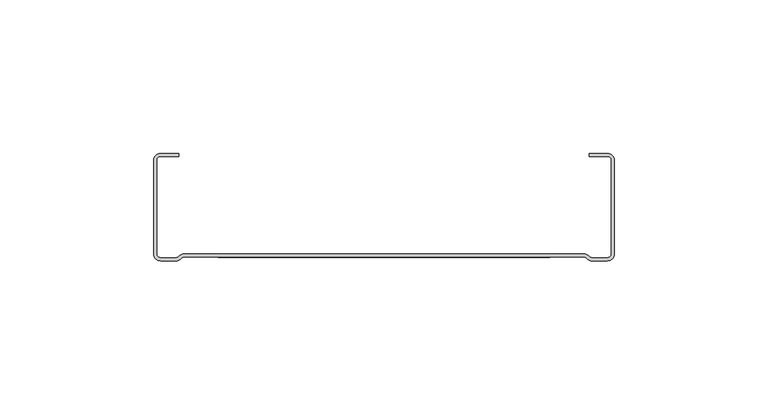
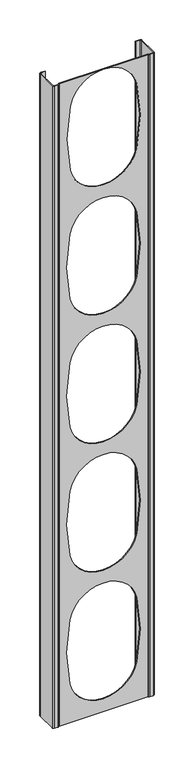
"""IFC4 building model written with IfcOpenShell, lengths in millimetres: proxy geometry, afs-LW-Stud-162 : afs-LW-Stud-162."""

from ifc_helpers import new_model, si_unit, frame, origin, place, context, project, spatial, polyline, circle_curve, source, transform, mapped, element, save
from ifc_brep_helpers import plane_surface, cylinder_surface, revolved_surface, advanced_brep


def generic_models_4f916ead(model_context):
    return source(origin(), model_context, "Body", "AdvancedBrep", [
        advanced_brep(
        [(75.0, 32.75, 1040.0), (72.75, 35.0, 1040.0), (66.75, 35.0, 1040.0), (66.75, 34.0, 1040.0), (72.75, 34.0, 1040.0), (74.0, 32.75, 1040.0), (74.0, 2.25, 1040.0), (72.75, 1.0, 1040.0), (67.75, 1.0, 1040.0), (66.819723, 1.4150841, 1040.0), (65.0795419, 2.2, 1040.0), (0.0, 2.2, 1040.0), (-65.0795419, 2.2, 1040.0), (-66.819723, 1.4150841, 1040.0), (-67.75, 1.0, 1040.0), (-72.75, 1.0, 1040.0), (-74.0, 2.25, 1040.0), (-74.0, 32.75, 1040.0), (-72.75, 34.0, 1040.0), (-66.75, 34.0, 1040.0), (-66.75, 35.0, 1040.0), (-72.75, 35.0, 1040.0), (-75.0, 32.75, 1040.0), (-75.0, 2.25, 1040.0), (-72.75, 0.0, 1040.0), (-67.75, 0.0, 1040.0), (-66.0632084, 0.760962, 1040.0), (-65.0795419, 1.2, 1040.0), (0.0, 1.2, 1040.0), (65.0795419, 1.2, 1040.0), (66.0632084, 0.760962, 1040.0), (67.75, 0.0, 1040.0), (72.75, 0.0, 1040.0), (75.0, 2.25, 1040.0), (72.75, 35.0, 40.0), (75.0, 32.75, 40.0), (75.0, 2.25, 40.0), (72.75, 0.0, 40.0), (67.75, 0.0, 40.0), (66.0632084, 0.760962, 40.0), (65.0795419, 1.2, 40.0), (-65.0795419, 1.2, 40.0), (-66.0632084, 0.760962, 40.0), (-67.75, 0.0, 40.0), (-72.75, 0.0, 40.0), (-75.0, 2.25, 40.0), (-75.0, 32.75, 40.0), (-72.75, 35.0, 40.0), (-66.75, 35.0, 40.0), (-66.75, 34.0, 40.0), (-72.75, 34.0, 40.0), (-74.0, 32.75, 40.0), (-74.0, 2.25, 40.0), (-72.75, 1.0, 40.0), (-67.75, 1.0, 40.0), (-66.819723, 1.4150841, 40.0), (-65.0795419, 2.2, 40.0), (65.0795419, 2.2, 40.0), (66.819723, 1.4150841, 40.0), (67.75, 1.0, 40.0), (72.75, 1.0, 40.0), (74.0, 2.25, 40.0), (74.0, 32.75, 40.0), (72.75, 34.0, 40.0), (66.75, 34.0, 40.0), (66.75, 35.0, 40.0), (-49.009901, 2.2, 999.9009901), (-49.009901, 2.2, 900.0990099), (49.009901, 2.2, 900.0990099), (49.009901, 2.2, 999.9009901), (-49.009901, 2.2, 399.9009901), (-49.009901, 2.2, 300.0990099), (49.009901, 2.2, 300.0990099), (49.009901, 2.2, 399.9009901), (-49.009901, 2.2, 599.9009901), (-49.009901, 2.2, 500.0990099), (49.009901, 2.2, 500.0990099), (49.009901, 2.2, 599.9009901), (-49.009901, 2.2, 799.9009901), (-49.009901, 2.2, 700.0990099), (49.009901, 2.2, 700.0990099), (49.009901, 2.2, 799.9009901), (-49.009901, 2.2, 199.9009901), (-49.009901, 2.2, 100.0990099), (49.009901, 2.2, 100.0990099), (49.009901, 2.2, 199.9009901), (49.009901, 1.2, 999.9009901), (49.009901, 1.2, 900.0990099), (-49.009901, 1.2, 900.0990099), (-49.009901, 1.2, 999.9009901), (-49.009901, 1.2, 300.0990099), (-49.009901, 1.2, 399.9009901), (49.009901, 1.2, 399.9009901), (49.009901, 1.2, 300.0990099), (-49.009901, 1.2, 500.0990099), (-49.009901, 1.2, 599.9009901), (49.009901, 1.2, 599.9009901), (49.009901, 1.2, 500.0990099), (-49.009901, 1.2, 700.0990099), (-49.009901, 1.2, 799.9009901), (49.009901, 1.2, 799.9009901), (49.009901, 1.2, 700.0990099), (-49.009901, 1.2, 100.0990099), (-49.009901, 1.2, 199.9009901), (49.009901, 1.2, 199.9009901), (49.009901, 1.2, 100.0990099)],
        [
            (0, 1, circle_curve(frame((72.75, 32.75, 1040.0), z_axis=(0.0, 0.0, 1.0), x_axis=(1.0, 0.0, 0.0)), 2.25)),
            (1, 2),
            (2, 3),
            (3, 4),
            (4, 5, circle_curve(frame((72.75, 32.75, 1040.0), z_axis=(0.0, 0.0, -1.0), x_axis=(1.0, 0.0, 0.0)), 1.25)),
            (5, 6),
            (6, 7, circle_curve(frame((72.75, 2.25, 1040.0), z_axis=(0.0, 0.0, -1.0), x_axis=(1.0, 0.0, 0.0)), 1.25)),
            (7, 8),
            (8, 9, circle_curve(frame((67.75, 2.25, 1040.0), z_axis=(0.0, 0.0, -1.0), x_axis=(1.0, 0.0, 0.0)), 1.25)),
            (9, 10, circle_curve(frame((65.0795419, -0.1214736, 1040.0), z_axis=(0.0, 0.0, 1.0), x_axis=(1.0, 0.0, 0.0)), 2.3214736)),
            (10, 11),
            (11, 12),
            (12, 13, circle_curve(frame((-65.0795419, -0.1214736, 1040.0), z_axis=(0.0, 0.0, 1.0), x_axis=(1.0, 0.0, 0.0)), 2.3214736)),
            (13, 14, circle_curve(frame((-67.75, 2.25, 1040.0), z_axis=(0.0, 0.0, -1.0), x_axis=(1.0, 0.0, 0.0)), 1.25)),
            (14, 15),
            (15, 16, circle_curve(frame((-72.75, 2.25, 1040.0), z_axis=(0.0, 0.0, -1.0), x_axis=(1.0, 0.0, 0.0)), 1.25)),
            (16, 17),
            (17, 18, circle_curve(frame((-72.75, 32.75, 1040.0), z_axis=(0.0, 0.0, -1.0), x_axis=(1.0, 0.0, 0.0)), 1.25)),
            (18, 19),
            (19, 20),
            (20, 21),
            (21, 22, circle_curve(frame((-72.75, 32.75, 1040.0), z_axis=(0.0, 0.0, 1.0), x_axis=(1.0, 0.0, 0.0)), 2.25)),
            (22, 23),
            (23, 24, circle_curve(frame((-72.75, 2.25, 1040.0), z_axis=(0.0, 0.0, 1.0), x_axis=(1.0, 0.0, 0.0)), 2.25)),
            (24, 25),
            (25, 26, circle_curve(frame((-67.75, 2.25, 1040.0), z_axis=(0.0, 0.0, 1.0), x_axis=(1.0, 0.0, 0.0)), 2.25)),
            (26, 27, circle_curve(frame((-65.0795419, -0.1214736, 1040.0), z_axis=(0.0, 0.0, -1.0), x_axis=(1.0, 0.0, 0.0)), 1.3214736)),
            (27, 28),
            (28, 29),
            (29, 30, circle_curve(frame((65.0795419, -0.1214736, 1040.0), z_axis=(0.0, 0.0, -1.0), x_axis=(1.0, 0.0, 0.0)), 1.3214736)),
            (30, 31, circle_curve(frame((67.75, 2.25, 1040.0), z_axis=(0.0, 0.0, 1.0), x_axis=(1.0, 0.0, 0.0)), 2.25)),
            (31, 32),
            (32, 33, circle_curve(frame((72.75, 2.25, 1040.0), z_axis=(0.0, 0.0, 1.0), x_axis=(1.0, 0.0, 0.0)), 2.25)),
            (33, 0),
            (34, 35, circle_curve(frame((72.75, 32.75, 40.0), z_axis=(0.0, 0.0, -1.0), x_axis=(1.0, 0.0, 0.0)), 2.25)),
            (35, 36),
            (36, 37, circle_curve(frame((72.75, 2.25, 40.0), z_axis=(0.0, 0.0, -1.0), x_axis=(1.0, 0.0, 0.0)), 2.25)),
            (37, 38),
            (38, 39, circle_curve(frame((67.75, 2.25, 40.0), z_axis=(0.0, 0.0, -1.0), x_axis=(1.0, 0.0, 0.0)), 2.25)),
            (39, 40, circle_curve(frame((65.0795419, -0.1214736, 40.0), z_axis=(0.0, 0.0, 1.0), x_axis=(1.0, 0.0, 0.0)), 1.3214736)),
            (40, 41),
            (41, 42, circle_curve(frame((-65.0795419, -0.1214736, 40.0), z_axis=(0.0, 0.0, 1.0), x_axis=(1.0, 0.0, 0.0)), 1.3214736)),
            (42, 43, circle_curve(frame((-67.75, 2.25, 40.0), z_axis=(0.0, 0.0, -1.0), x_axis=(1.0, 0.0, 0.0)), 2.25)),
            (43, 44),
            (44, 45, circle_curve(frame((-72.75, 2.25, 40.0), z_axis=(0.0, 0.0, -1.0), x_axis=(1.0, 0.0, 0.0)), 2.25)),
            (45, 46),
            (46, 47, circle_curve(frame((-72.75, 32.75, 40.0), z_axis=(0.0, 0.0, -1.0), x_axis=(1.0, 0.0, 0.0)), 2.25)),
            (47, 48),
            (48, 49),
            (49, 50),
            (50, 51, circle_curve(frame((-72.75, 32.75, 40.0), z_axis=(0.0, 0.0, 1.0), x_axis=(1.0, 0.0, 0.0)), 1.25)),
            (51, 52),
            (52, 53, circle_curve(frame((-72.75, 2.25, 40.0), z_axis=(0.0, 0.0, 1.0), x_axis=(1.0, 0.0, 0.0)), 1.25)),
            (53, 54),
            (54, 55, circle_curve(frame((-67.75, 2.25, 40.0), z_axis=(0.0, 0.0, 1.0), x_axis=(1.0, 0.0, 0.0)), 1.25)),
            (55, 56, circle_curve(frame((-65.0795419, -0.1214736, 40.0), z_axis=(0.0, 0.0, -1.0), x_axis=(1.0, 0.0, 0.0)), 2.3214736)),
            (56, 57),
            (57, 58, circle_curve(frame((65.0795419, -0.1214736, 40.0), z_axis=(0.0, 0.0, -1.0), x_axis=(1.0, 0.0, 0.0)), 2.3214736)),
            (58, 59, circle_curve(frame((67.75, 2.25, 40.0), z_axis=(0.0, 0.0, 1.0), x_axis=(1.0, 0.0, 0.0)), 1.25)),
            (59, 60),
            (60, 61, circle_curve(frame((72.75, 2.25, 40.0), z_axis=(0.0, 0.0, 1.0), x_axis=(1.0, 0.0, 0.0)), 1.25)),
            (61, 62),
            (62, 63, circle_curve(frame((72.75, 32.75, 40.0), z_axis=(0.0, 0.0, 1.0), x_axis=(1.0, 0.0, 0.0)), 1.25)),
            (63, 64),
            (64, 65),
            (65, 34),
            (0, 35),
            (34, 1),
            (65, 2),
            (64, 3),
            (63, 4),
            (62, 5),
            (61, 6),
            (60, 7),
            (59, 8),
            (58, 9),
            (57, 10),
            (56, 12),
            (11, 66, circle_curve(frame((0.0, 2.2, 990.0), z_axis=(0.0, -1.0, 0.0), x_axis=(1.0, 0.0, 0.0)), 50.0)),
            (66, 67, circle_curve(frame((198.0, 2.2, 950.0), z_axis=(0.0, -1.0, 0.0), x_axis=(-1.0, 0.0, 0.0)), 252.0)),
            (67, 68, circle_curve(frame((0.0, 2.2, 910.0), z_axis=(0.0, -1.0, 0.0), x_axis=(1.0, 0.0, 0.0)), 50.0)),
            (68, 69, circle_curve(frame((-198.0, 2.2, 950.0), z_axis=(0.0, -1.0, 0.0), x_axis=(1.0, 0.0, 0.0)), 252.0)),
            (69, 11, circle_curve(frame((0.0, 2.2, 990.0), z_axis=(0.0, -1.0, 0.0), x_axis=(1.0, 0.0, 0.0)), 50.0)),
            (70, 71, circle_curve(frame((198.0, 2.2, 350.0), z_axis=(0.0, -1.0, 0.0), x_axis=(-1.0, 0.0, 0.0)), 252.0)),
            (71, 72, circle_curve(frame((0.0, 2.2, 310.0), z_axis=(0.0, -1.0, 0.0), x_axis=(1.0, 0.0, 0.0)), 50.0)),
            (72, 73, circle_curve(frame((-198.0, 2.2, 350.0), z_axis=(0.0, -1.0, 0.0), x_axis=(1.0, 0.0, 0.0)), 252.0)),
            (73, 70, circle_curve(frame((0.0, 2.2, 390.0), z_axis=(0.0, -1.0, 0.0), x_axis=(1.0, 0.0, 0.0)), 50.0)),
            (74, 75, circle_curve(frame((198.0, 2.2, 550.0), z_axis=(0.0, -1.0, 0.0), x_axis=(-1.0, 0.0, 0.0)), 252.0)),
            (75, 76, circle_curve(frame((0.0, 2.2, 510.0), z_axis=(0.0, -1.0, 0.0), x_axis=(1.0, 0.0, 0.0)), 50.0)),
            (76, 77, circle_curve(frame((-198.0, 2.2, 550.0), z_axis=(0.0, -1.0, 0.0), x_axis=(1.0, 0.0, 0.0)), 252.0)),
            (77, 74, circle_curve(frame((0.0, 2.2, 590.0), z_axis=(0.0, -1.0, 0.0), x_axis=(1.0, 0.0, 0.0)), 50.0)),
            (78, 79, circle_curve(frame((198.0, 2.2, 750.0), z_axis=(0.0, -1.0, 0.0), x_axis=(-1.0, 0.0, 0.0)), 252.0)),
            (79, 80, circle_curve(frame((0.0, 2.2, 710.0), z_axis=(0.0, -1.0, 0.0), x_axis=(1.0, 0.0, 0.0)), 50.0)),
            (80, 81, circle_curve(frame((-198.0, 2.2, 750.0), z_axis=(0.0, -1.0, 0.0), x_axis=(1.0, 0.0, 0.0)), 252.0)),
            (81, 78, circle_curve(frame((0.0, 2.2, 790.0), z_axis=(0.0, -1.0, 0.0), x_axis=(1.0, 0.0, 0.0)), 50.0)),
            (82, 83, circle_curve(frame((198.0, 2.2, 150.0), z_axis=(0.0, -1.0, 0.0), x_axis=(-1.0, 0.0, 0.0)), 252.0)),
            (83, 84, circle_curve(frame((0.0, 2.2, 110.0), z_axis=(0.0, -1.0, 0.0), x_axis=(1.0, 0.0, 0.0)), 50.0)),
            (84, 85, circle_curve(frame((-198.0, 2.2, 150.0), z_axis=(0.0, -1.0, 0.0), x_axis=(1.0, 0.0, 0.0)), 252.0)),
            (85, 82, circle_curve(frame((0.0, 2.2, 190.0), z_axis=(0.0, -1.0, 0.0), x_axis=(1.0, 0.0, 0.0)), 50.0)),
            (55, 13),
            (54, 14),
            (53, 15),
            (52, 16),
            (51, 17),
            (50, 18),
            (49, 19),
            (48, 20),
            (47, 21),
            (46, 22),
            (45, 23),
            (44, 24),
            (43, 25),
            (42, 26),
            (41, 27),
            (40, 29),
            (28, 86, circle_curve(frame((0.0, 1.2, 990.0), z_axis=(0.0, 1.0, 0.0), x_axis=(1.0, 0.0, 0.0)), 50.0)),
            (86, 87, circle_curve(frame((-198.0, 1.2, 950.0), z_axis=(0.0, 1.0, 0.0), x_axis=(1.0, 0.0, 0.0)), 252.0)),
            (87, 88, circle_curve(frame((0.0, 1.2, 910.0), z_axis=(0.0, 1.0, 0.0), x_axis=(1.0, 0.0, 0.0)), 50.0)),
            (88, 89, circle_curve(frame((198.0, 1.2, 950.0), z_axis=(0.0, 1.0, 0.0), x_axis=(-1.0, 0.0, 0.0)), 252.0)),
            (89, 28, circle_curve(frame((0.0, 1.2, 990.0), z_axis=(0.0, 1.0, 0.0), x_axis=(1.0, 0.0, 0.0)), 50.0)),
            (90, 91, circle_curve(frame((198.0, 1.2, 350.0), z_axis=(0.0, 1.0, 0.0), x_axis=(-1.0, 0.0, 0.0)), 252.0)),
            (91, 92, circle_curve(frame((0.0, 1.2, 390.0), z_axis=(0.0, 1.0, 0.0), x_axis=(1.0, 0.0, 0.0)), 50.0)),
            (92, 93, circle_curve(frame((-198.0, 1.2, 350.0), z_axis=(0.0, 1.0, 0.0), x_axis=(1.0, 0.0, 0.0)), 252.0)),
            (93, 90, circle_curve(frame((0.0, 1.2, 310.0), z_axis=(0.0, 1.0, 0.0), x_axis=(1.0, 0.0, 0.0)), 50.0)),
            (94, 95, circle_curve(frame((198.0, 1.2, 550.0), z_axis=(0.0, 1.0, 0.0), x_axis=(-1.0, 0.0, 0.0)), 252.0)),
            (95, 96, circle_curve(frame((0.0, 1.2, 590.0), z_axis=(0.0, 1.0, 0.0), x_axis=(1.0, 0.0, 0.0)), 50.0)),
            (96, 97, circle_curve(frame((-198.0, 1.2, 550.0), z_axis=(0.0, 1.0, 0.0), x_axis=(1.0, 0.0, 0.0)), 252.0)),
            (97, 94, circle_curve(frame((0.0, 1.2, 510.0), z_axis=(0.0, 1.0, 0.0), x_axis=(1.0, 0.0, 0.0)), 50.0)),
            (98, 99, circle_curve(frame((198.0, 1.2, 750.0), z_axis=(0.0, 1.0, 0.0), x_axis=(-1.0, 0.0, 0.0)), 252.0)),
            (99, 100, circle_curve(frame((0.0, 1.2, 790.0), z_axis=(0.0, 1.0, 0.0), x_axis=(1.0, 0.0, 0.0)), 50.0)),
            (100, 101, circle_curve(frame((-198.0, 1.2, 750.0), z_axis=(0.0, 1.0, 0.0), x_axis=(1.0, 0.0, 0.0)), 252.0)),
            (101, 98, circle_curve(frame((0.0, 1.2, 710.0), z_axis=(0.0, 1.0, 0.0), x_axis=(1.0, 0.0, 0.0)), 50.0)),
            (102, 103, circle_curve(frame((198.0, 1.2, 150.0), z_axis=(0.0, 1.0, 0.0), x_axis=(-1.0, 0.0, 0.0)), 252.0)),
            (103, 104, circle_curve(frame((0.0, 1.2, 190.0), z_axis=(0.0, 1.0, 0.0), x_axis=(1.0, 0.0, 0.0)), 50.0)),
            (104, 105, circle_curve(frame((-198.0, 1.2, 150.0), z_axis=(0.0, 1.0, 0.0), x_axis=(1.0, 0.0, 0.0)), 252.0)),
            (105, 102, circle_curve(frame((0.0, 1.2, 110.0), z_axis=(0.0, 1.0, 0.0), x_axis=(1.0, 0.0, 0.0)), 50.0)),
            (39, 30),
            (38, 31),
            (37, 32),
            (36, 33),
            (90, 71),
            (70, 91),
            (73, 92),
            (72, 93),
            (94, 75),
            (74, 95),
            (77, 96),
            (76, 97),
            (98, 79),
            (78, 99),
            (81, 100),
            (80, 101),
            (88, 67),
            (66, 89),
            (69, 86),
            (68, 87),
            (102, 83),
            (82, 103),
            (85, 104),
            (84, 105),
        ],
        [
            plane_surface(frame((75.0, 32.75, 1040.0), z_axis=(0.0, 0.0, 1.0), x_axis=(0.0, 1.0, 0.0))),
            plane_surface(frame((75.0, 32.75, 40.0), z_axis=(0.0, 0.0, -1.0), x_axis=(0.0, -1.0, 0.0))),
            cylinder_surface(frame((72.75, 32.75, 40.0), z_axis=(0.0, 0.0, 1.0), x_axis=(1.0, 0.0, 0.0)), 2.25),
            plane_surface(frame((72.75, 35.0, 1040.0), z_axis=(0.0, 1.0, 0.0), x_axis=(0.0, 0.0, -1.0))),
            plane_surface(frame((66.75, 35.0, 1040.0), z_axis=(-1.0, 0.0, 0.0), x_axis=(0.0, 0.0, -1.0))),
            plane_surface(frame((66.75, 34.0, 1040.0), z_axis=(0.0, -1.0, 0.0), x_axis=(0.0, 0.0, -1.0))),
            revolved_surface(polyline([(74.0, 32.75, 40.0), (74.0, 32.75, 1040.0)]), (72.75, 32.75, 40.0), (0.0, 0.0, -1.0)),
            plane_surface(frame((74.0, 32.75, 1040.0), z_axis=(-1.0, 0.0, 0.0), x_axis=(0.0, 0.0, -1.0))),
            revolved_surface(polyline([(74.0, 2.25, 40.0), (74.0, 2.25, 1040.0)]), (72.75, 2.25, 40.0), (0.0, 0.0, -1.0)),
            plane_surface(frame((72.75, 1.0, 1040.0), z_axis=(0.0, 1.0, 0.0), x_axis=(0.0, 0.0, -1.0))),
            revolved_surface(polyline([(69.0, 2.25, 40.0), (69.0, 2.25, 1040.0)]), (67.75, 2.25, 40.0), (0.0, 0.0, -1.0)),
            cylinder_surface(frame((65.0795419, -0.1214736, 40.0), z_axis=(0.0, 0.0, 1.0), x_axis=(1.0, 0.0, 0.0)), 2.3214736),
            plane_surface(frame((65.0795419, 2.2, 1040.0), z_axis=(0.0, 1.0, 0.0), x_axis=(0.0, 0.0, -1.0))),
            cylinder_surface(frame((-65.0795419, -0.1214736, 40.0), z_axis=(0.0, 0.0, 1.0), x_axis=(1.0, 0.0, 0.0)), 2.3214736),
            revolved_surface(polyline([(-66.5, 2.25, 40.0), (-66.5, 2.25, 1040.0)]), (-67.75, 2.25, 40.0), (0.0, 0.0, -1.0)),
            plane_surface(frame((-67.75, 1.0, 1040.0), z_axis=(0.0, 1.0, 0.0), x_axis=(0.0, 0.0, -1.0))),
            revolved_surface(polyline([(-71.5, 2.25, 40.0), (-71.5, 2.25, 1040.0)]), (-72.75, 2.25, 40.0), (0.0, 0.0, -1.0)),
            plane_surface(frame((-74.0, 2.25, 1040.0), z_axis=(1.0, 0.0, 0.0), x_axis=(0.0, 0.0, -1.0))),
            revolved_surface(polyline([(-71.5, 32.75, 40.0), (-71.5, 32.75, 1040.0)]), (-72.75, 32.75, 40.0), (0.0, 0.0, -1.0)),
            plane_surface(frame((-72.75, 34.0, 1040.0), z_axis=(0.0, -1.0, 0.0), x_axis=(0.0, 0.0, -1.0))),
            plane_surface(frame((-66.75, 34.0, 1040.0), z_axis=(1.0, 0.0, 0.0), x_axis=(0.0, 0.0, -1.0))),
            plane_surface(frame((-66.75, 35.0, 1040.0), z_axis=(0.0, 1.0, 0.0), x_axis=(0.0, 0.0, -1.0))),
            cylinder_surface(frame((-72.75, 32.75, 40.0), z_axis=(0.0, 0.0, 1.0), x_axis=(1.0, 0.0, 0.0)), 2.25),
            plane_surface(frame((-75.0, 32.75, 1040.0), z_axis=(-1.0, 0.0, 0.0), x_axis=(0.0, 0.0, -1.0))),
            cylinder_surface(frame((-72.75, 2.25, 40.0), z_axis=(0.0, 0.0, 1.0), x_axis=(1.0, 0.0, 0.0)), 2.25),
            plane_surface(frame((-72.75, 0.0, 1040.0), z_axis=(0.0, -1.0, 0.0), x_axis=(0.0, 0.0, -1.0))),
            cylinder_surface(frame((-67.75, 2.25, 40.0), z_axis=(0.0, 0.0, 1.0), x_axis=(1.0, 0.0, 0.0)), 2.25),
            revolved_surface(polyline([(-63.7580683, -0.1214736, 40.0), (-63.7580683, -0.1214736, 1040.0)]), (-65.0795419, -0.1214736, 40.0), (0.0, 0.0, -1.0)),
            plane_surface(frame((-65.0795419, 1.2, 1040.0), z_axis=(0.0, -1.0, 0.0), x_axis=(0.0, 0.0, -1.0))),
            revolved_surface(polyline([(66.4010155, -0.1214736, 40.0), (66.4010155, -0.1214736, 1040.0)]), (65.0795419, -0.1214736, 40.0), (0.0, 0.0, -1.0)),
            cylinder_surface(frame((67.75, 2.25, 40.0), z_axis=(0.0, 0.0, 1.0), x_axis=(1.0, 0.0, 0.0)), 2.25),
            plane_surface(frame((67.75, 0.0, 1040.0), z_axis=(0.0, -1.0, 0.0), x_axis=(0.0, 0.0, -1.0))),
            cylinder_surface(frame((72.75, 2.25, 40.0), z_axis=(0.0, 0.0, 1.0), x_axis=(1.0, 0.0, 0.0)), 2.25),
            plane_surface(frame((75.0, 2.25, 1040.0), z_axis=(1.0, 0.0, 0.0), x_axis=(0.0, 0.0, -1.0))),
            revolved_surface(polyline([(-54.0, 2.200000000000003, 350.0), (-54.0, 1.2000000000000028, 350.0)]), (198.0, -98.8, 350.0), (0.0, 1.0, 0.0)),
            revolved_surface(polyline([(50.0, 2.200000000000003, 390.0), (50.0, 1.2000000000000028, 390.0)]), (0.0, -98.8, 390.0), (0.0, 1.0, 0.0)),
            revolved_surface(polyline([(54.0, 2.200000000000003, 350.0), (54.0, 1.2000000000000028, 350.0)]), (-198.0, -98.8, 350.0), (0.0, 1.0, 0.0)),
            revolved_surface(polyline([(50.0, 2.200000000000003, 310.0), (50.0, 1.2000000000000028, 310.0)]), (0.0, -98.8, 310.0), (0.0, 1.0, 0.0)),
            revolved_surface(polyline([(-54.0, 2.200000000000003, 550.0), (-54.0, 1.2000000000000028, 550.0)]), (198.0, -98.8, 550.0), (0.0, 1.0, 0.0)),
            revolved_surface(polyline([(50.0, 2.200000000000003, 590.0), (50.0, 1.2000000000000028, 590.0)]), (0.0, -98.8, 590.0), (0.0, 1.0, 0.0)),
            revolved_surface(polyline([(54.0, 2.200000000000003, 550.0), (54.0, 1.2000000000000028, 550.0)]), (-198.0, -98.8, 550.0), (0.0, 1.0, 0.0)),
            revolved_surface(polyline([(50.0, 2.200000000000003, 510.0), (50.0, 1.2000000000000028, 510.0)]), (0.0, -98.8, 510.0), (0.0, 1.0, 0.0)),
            revolved_surface(polyline([(-54.0, 2.200000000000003, 750.0), (-54.0, 1.2000000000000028, 750.0)]), (198.0, -98.8, 750.0), (0.0, 1.0, 0.0)),
            revolved_surface(polyline([(50.0, 2.200000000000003, 790.0), (50.0, 1.2000000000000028, 790.0)]), (0.0, -98.8, 790.0), (0.0, 1.0, 0.0)),
            revolved_surface(polyline([(54.0, 2.200000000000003, 750.0), (54.0, 1.2000000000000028, 750.0)]), (-198.0, -98.8, 750.0), (0.0, 1.0, 0.0)),
            revolved_surface(polyline([(50.0, 2.200000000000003, 710.0), (50.0, 1.2000000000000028, 710.0)]), (0.0, -98.8, 710.0), (0.0, 1.0, 0.0)),
            revolved_surface(polyline([(-54.0, 2.200000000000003, 950.0), (-54.0, 1.2000000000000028, 950.0)]), (198.0, -98.8, 950.0), (0.0, 1.0, 0.0)),
            revolved_surface(polyline([(50.0, 2.200000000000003, 990.0), (50.0, 1.2000000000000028, 990.0)]), (0.0, -98.8, 990.0), (0.0, 1.0, 0.0)),
            revolved_surface(polyline([(54.0, 2.200000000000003, 950.0), (54.0, 1.2000000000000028, 950.0)]), (-198.0, -98.8, 950.0), (0.0, 1.0, 0.0)),
            revolved_surface(polyline([(50.0, 2.200000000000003, 910.0), (50.0, 1.2000000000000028, 910.0)]), (0.0, -98.8, 910.0), (0.0, 1.0, 0.0)),
            revolved_surface(polyline([(-54.0, 2.200000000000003, 150.0), (-54.0, 1.2000000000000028, 150.0)]), (198.0, -98.8, 150.0), (0.0, 1.0, 0.0)),
            revolved_surface(polyline([(50.0, 2.200000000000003, 190.0), (50.0, 1.2000000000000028, 190.0)]), (0.0, -98.8, 190.0), (0.0, 1.0, 0.0)),
            revolved_surface(polyline([(54.0, 2.200000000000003, 150.0), (54.0, 1.2000000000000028, 150.0)]), (-198.0, -98.8, 150.0), (0.0, 1.0, 0.0)),
            revolved_surface(polyline([(50.0, 2.200000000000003, 110.0), (50.0, 1.2000000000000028, 110.0)]), (0.0, -98.8, 110.0), (0.0, 1.0, 0.0)),
        ],
        [
            (0, [[1, 2, 3, 4, 5, 6, 7, 8, 9, 10, 11, 12, 13, 14, 15, 16, 17, 18, 19, 20, 21, 22, 23, 24, 25, 26, 27, 28, 29, 30, 31, 32, 33, 34]]),
            (1, [[35, 36, 37, 38, 39, 40, 41, 42, 43, 44, 45, 46, 47, 48, 49, 50, 51, 52, 53, 54, 55, 56, 57, 58, 59, 60, 61, 62, 63, 64, 65, 66]]),
            (2, [[-1, 67, -35, 68]]),
            (3, [[-2, -68, -66, 69]]),
            (4, [[-3, -69, -65, 70]]),
            (5, [[-4, -70, -64, 71]]),
            (6, [[-5, -71, -63, 72]]),
            (7, [[-6, -72, -62, 73]]),
            (8, [[-7, -73, -61, 74]]),
            (9, [[-8, -74, -60, 75]]),
            (10, [[-9, -75, -59, 76]]),
            (11, [[-10, -76, -58, 77]]),
            (12, [[-57, 78, -12, 79, 80, 81, 82, 83, -11, -77], [84, 85, 86, 87], [88, 89, 90, 91], [92, 93, 94, 95], [96, 97, 98, 99]]),
            (13, [[-13, -78, -56, 100]]),
            (14, [[-14, -100, -55, 101]]),
            (15, [[-15, -101, -54, 102]]),
            (16, [[-16, -102, -53, 103]]),
            (17, [[-17, -103, -52, 104]]),
            (18, [[-18, -104, -51, 105]]),
            (19, [[-19, -105, -50, 106]]),
            (20, [[-20, -106, -49, 107]]),
            (21, [[-21, -107, -48, 108]]),
            (22, [[-22, -108, -47, 109]]),
            (23, [[-23, -109, -46, 110]]),
            (24, [[-24, -110, -45, 111]]),
            (25, [[-25, -111, -44, 112]]),
            (26, [[-26, -112, -43, 113]]),
            (27, [[-27, -113, -42, 114]]),
            (28, [[-41, 115, -29, 116, 117, 118, 119, 120, -28, -114], [121, 122, 123, 124], [125, 126, 127, 128], [129, 130, 131, 132], [133, 134, 135, 136]]),
            (29, [[-30, -115, -40, 137]]),
            (30, [[-31, -137, -39, 138]]),
            (31, [[-32, -138, -38, 139]]),
            (32, [[-33, -139, -37, 140]]),
            (33, [[-34, -140, -36, -67]]),
            (34, [[141, -84, 142, -121]]),
            (35, [[-142, -87, 143, -122]]),
            (36, [[-143, -86, 144, -123]]),
            (37, [[-141, -124, -144, -85]]),
            (38, [[145, -88, 146, -125]]),
            (39, [[-146, -91, 147, -126]]),
            (40, [[-147, -90, 148, -127]]),
            (41, [[-145, -128, -148, -89]]),
            (42, [[149, -92, 150, -129]]),
            (43, [[-150, -95, 151, -130]]),
            (44, [[-151, -94, 152, -131]]),
            (45, [[-149, -132, -152, -93]]),
            (46, [[153, -80, 154, -119]]),
            (47, [[-154, -79, -83, 155, -116, -120]]),
            (48, [[-155, -82, 156, -117]]),
            (49, [[-153, -118, -156, -81]]),
            (50, [[157, -96, 158, -133]]),
            (51, [[-158, -99, 159, -134]]),
            (52, [[-159, -98, 160, -135]]),
            (53, [[-157, -136, -160, -97]]),
        ],
    ),
    ])


if __name__ == "__main__":
    model = new_model("IFC4")
    model_context = context("Model", 3, world=origin())
    ifc_project = project(units=[si_unit("LENGTHUNIT", "METRE", prefix="MILLI")], contexts=[model_context])
    site = spatial("IfcSite", under=ifc_project)
    building = spatial("IfcBuilding", under=site)
    placement = place(None, origin())
    generic_models_shape = generic_models_4f916ead(model_context)
    element("IfcBuildingElementProxy", 1, Name="afs-LW-Stud-162 : afs-LW-Stud-162", ObjectType="afs-LW-Stud-162 : afs-LW-Stud-162", at=placement, inside=building, context=model_context, shape_type="MappedRepresentation", body=[
        mapped(generic_models_shape, transform((0.0, 0.0, 0.0), x_axis=(1.0, 0.0, 0.0), y_axis=(0.0, 1.0, 0.0), z_axis=(0.0, 0.0, 1.0))),
    ])
    save(model, "model.ifc")
